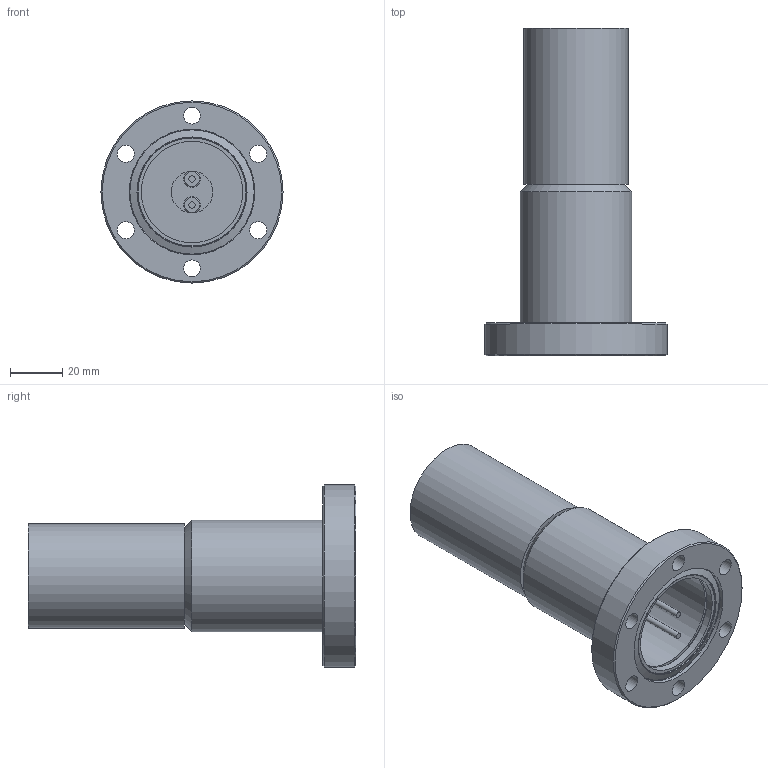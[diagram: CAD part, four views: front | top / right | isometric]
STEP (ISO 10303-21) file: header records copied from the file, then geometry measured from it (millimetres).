
FILE_DESCRIPTION(/* description */ (''),/* implementation_level */ '2;1');
FILE_NAME(/* name */ '2107-4094 magic NEG70(BeCu) v4.step',/* time_stamp */ '2023-10-24T17:13:59+09:00',/* author */ (''),/* organization */ (''),/* preprocessor_version */ 'ST-DEVELOPER v20',/* originating_system */ 'Autodesk Translation Framework v12.14.0.127',/* authorisation */ '');
FILE_SCHEMA (('AUTOMOTIVE_DESIGN { 1 0 10303 214 3 1 1 }'));
Length unit declared in the file: millimetre
Products named in the file (2): 2107-4094 magic NEG70(BeCu); 2P電流導入端子ICF34(t7.5)(JIS) v2
Assembly tree (1 placements, depth 2):
  2107-4094 magic NEG70(BeCu)
    2P電流導入端子ICF34(t7.5)(JIS) v2
Bounding box: 70 x 126 x 70 mm (x, y, z)
Volume: 73445.4 mm3; surface area: 46854.1 mm2
Topology: 13 solids, 13 shells, 119 faces, 219 edges, 141 vertices
Faces by surface type: cylinder 51, plane 41, cone 18, torus 9
Full cylindrical faces by diameter (mm): 2.39 x4, 3.3 x6, 3.332 x6, 4.5 x6, 5 x6, 6.35 x2, 6.5 x6, 16 x1, 18.3 x2, 21.4 x2, 34 x1, 36 x1, 39 x2, 40 x1, 41 x1, 41.9 x1, 43 x1, 48.3 x1, 70 x1
Entity records: 3092 total; most frequent: DIRECTION 601, CARTESIAN_POINT 476, ORIENTED_EDGE 426, AXIS2_PLACEMENT_3D 266, EDGE_CURVE 213, EDGE_LOOP 168, CIRCLE 144, VERTEX_POINT 141
